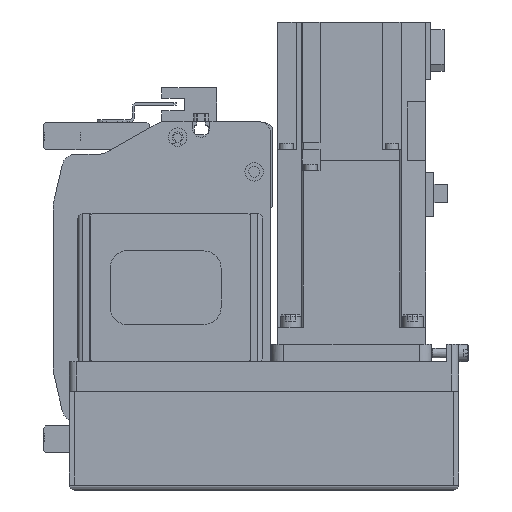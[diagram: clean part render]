
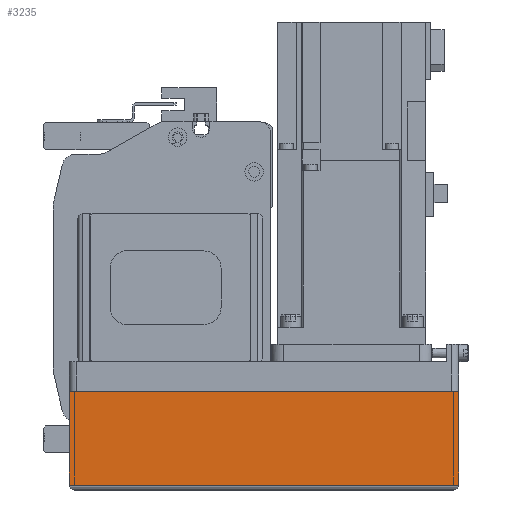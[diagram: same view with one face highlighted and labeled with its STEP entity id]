
A CAD part, left-side view. The second image highlights one B-rep face of the part: STEP entity #3235.
In plain terms, the highlighted planar face has unit normal (-1, 0, 0) as drawn and (0, 1, 0) by its records, which use the part's own axes.
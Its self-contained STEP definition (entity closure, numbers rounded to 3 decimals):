
#3235 = ADVANCED_FACE( '', ( #6761 ), #6762, .T. );
#6761 = FACE_OUTER_BOUND( '', #10327, .T. );
#6762 = PLANE( '', #10328 );
#10327 = EDGE_LOOP( '', ( #19418, #19419, #19420, #19421 ) );
#10328 = AXIS2_PLACEMENT_3D( '', #19422, #19423, #19424 );
#19418 = ORIENTED_EDGE( '', *, *, #21226, .F. );
#19419 = ORIENTED_EDGE( '', *, *, #21374, .F. );
#19420 = ORIENTED_EDGE( '', *, *, #21094, .T. );
#19421 = ORIENTED_EDGE( '', *, *, #22716, .T. );
#19422 = CARTESIAN_POINT( '', ( -158., 39., -50. ) );
#19423 = DIRECTION( '', ( 0., 1., 0. ) );
#19424 = DIRECTION( '', ( 0., 0., 1. ) );
#21094 = EDGE_CURVE( '', #25573, #25423, #25574, .T. );
#21226 = EDGE_CURVE( '', #25784, #25785, #25786, .T. );
#21374 = EDGE_CURVE( '', #25573, #25784, #26017, .T. );
#22716 = EDGE_CURVE( '', #25423, #25785, #28017, .T. );
#25423 = VERTEX_POINT( '', #31855 );
#25573 = VERTEX_POINT( '', #32071 );
#25574 = LINE( '', #32072, #32073 );
#25784 = VERTEX_POINT( '', #32631 );
#25785 = VERTEX_POINT( '', #32632 );
#25786 = LINE( '', #32633, #32634 );
#26017 = LINE( '', #32988, #32989 );
#28017 = LINE( '', #35917, #35918 );
#31855 = CARTESIAN_POINT( '', ( -158., 39., -12.1 ) );
#32071 = CARTESIAN_POINT( '', ( -158., 39., -50. ) );
#32072 = CARTESIAN_POINT( '', ( -158., 39., -50. ) );
#32073 = VECTOR( '', #38918, 1000. );
#32631 = CARTESIAN_POINT( '', ( 0., 39., -50. ) );
#32632 = CARTESIAN_POINT( '', ( 0., 39., -12.1 ) );
#32633 = CARTESIAN_POINT( '', ( 0., 39., -50. ) );
#32634 = VECTOR( '', #39061, 1000. );
#32988 = CARTESIAN_POINT( '', ( -158., 39., -50. ) );
#32989 = VECTOR( '', #39244, 1000. );
#35917 = CARTESIAN_POINT( '', ( -158., 39., -12.1 ) );
#35918 = VECTOR( '', #40897, 1000. );
#38918 = DIRECTION( '', ( 0., 0., 1. ) );
#39061 = DIRECTION( '', ( 0., 0., 1. ) );
#39244 = DIRECTION( '', ( 1., 0., 0. ) );
#40897 = DIRECTION( '', ( 1., 0., 0. ) );
